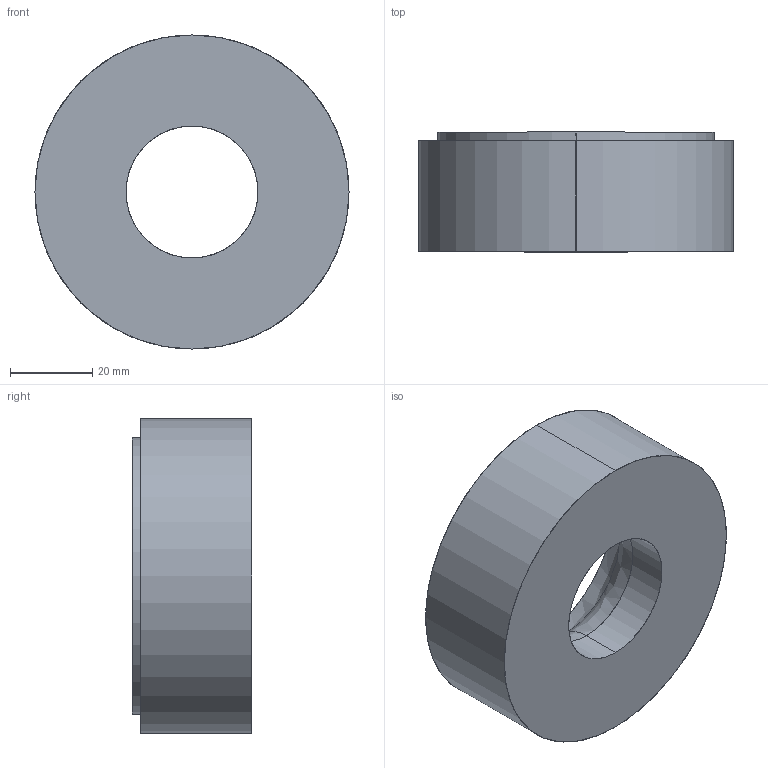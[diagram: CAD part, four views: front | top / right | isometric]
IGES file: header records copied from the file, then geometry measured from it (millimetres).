
Start section: SolidWorks IGES file using analytic representation for surfaces
Global section: file name: C:\Users\toshiba\Documents\Independiente\Plastico Guatavita\Diseños en plástico\Percheros\Perchero hongo\Molde SW\IGEs y STP\Bottom.IGS; native system: SolidWorks 2018; preprocessor: SolidWorks 2018; author: toshiba; date: 200310.125115; units: millimetre
Bounding box: 76.2 x 29 x 76.2 mm (x, y, z)
Surface area: 17017 mm2 (no closed solid volume)
Topology: 0 solids, 0 shells, 13 faces, 424 edges, 424 vertices
Faces by surface type: bspline 7, revolution 6
